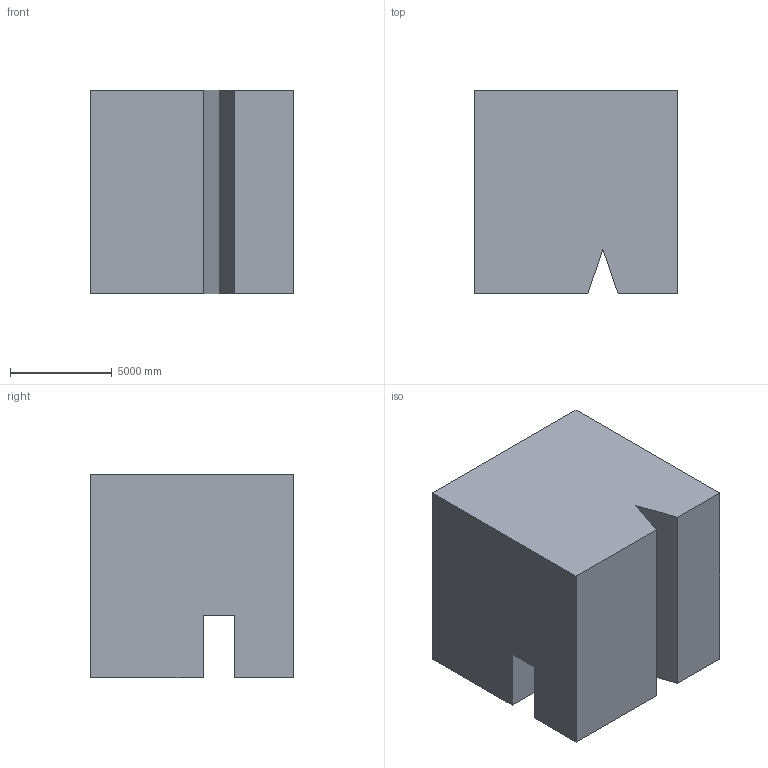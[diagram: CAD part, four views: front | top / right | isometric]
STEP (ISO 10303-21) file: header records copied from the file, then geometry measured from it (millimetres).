
FILE_DESCRIPTION (( 'STEP AP203' ), '1' );
FILE_NAME ('138.STEP', '2022-09-06T15:11:16', ( 'user' ), ( '' ), 'SwSTEP 2.0', 'SolidWorks 2021', '' );
FILE_SCHEMA (( 'CONFIG_CONTROL_DESIGN' ));
Length unit declared in the file: centimetre
Products named in the file (1): 138
Bounding box: 10000 x 10000 x 10000 mm (x, y, z)
Volume: 915457588405.4 mm3; surface area: 725107247.3 mm2
Topology: 1 solids, 1 shells, 19 faces, 45 edges, 30 vertices
Faces by surface type: plane 15, cylinder 4
Entity records: 624 total; most frequent: CARTESIAN_POINT 95, DIRECTION 93, ORIENTED_EDGE 90, EDGE_CURVE 45, VECTOR 37, LINE 37, VERTEX_POINT 30, AXIS2_PLACEMENT_3D 28
